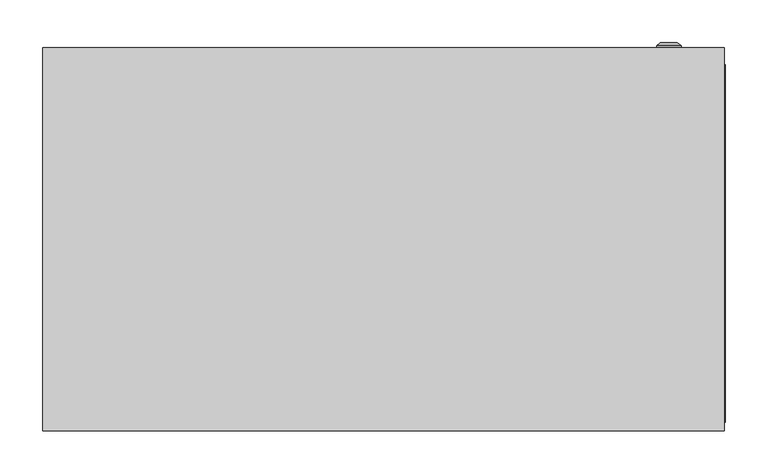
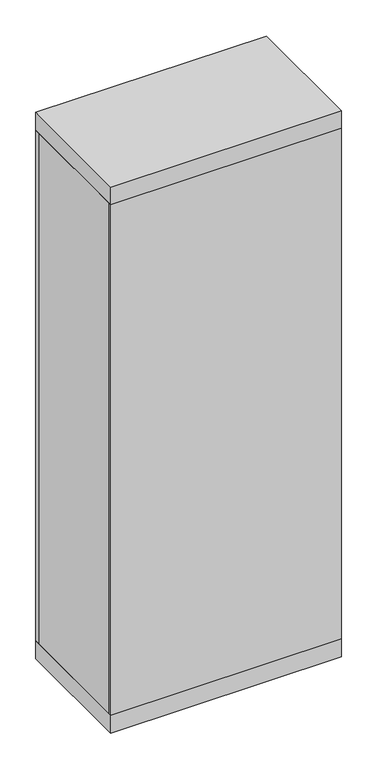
"""IFC4 building model written with IfcOpenShell, lengths in millimetres: proxy geometry, ВРУ-1_IP54 : ВРУ-1_2000х800х450."""

from ifc_helpers import new_model, si_unit, frame, origin, origin_with_axes, place, context, project, spatial, polyline, circle_curve, outline, extrude, source, transform, mapped, element, save
from ifc_brep_helpers import plane_surface, cylinder_surface, revolved_surface, advanced_brep


def electrical_equipment_03d4b405(model_context):
    return source(origin(), model_context, "Body", "SolidModel", [
        extrude(outline(polyline([(400.0, 0.0), (-400.0, 0.0), (-400.0, 10.0), (400.0, 10.0), (400.0, 0.0)])), frame((0.0, 0.0, 65.0187804), z_axis=(0.0, 0.0, 1.0), x_axis=(1.0, 0.0, 0.0)), (0.0, 0.0, 1.0), 1869.9812196),
        extrude(outline(polyline([(-355.8707865, 125.9831461), (-315.8707865, 125.9831461), (-315.8707865, 93.1179775), (-318.8707865, 93.1179775), (-318.8707865, 122.9831461), (-352.8707865, 122.9831461), (-352.8707865, 93.1179775), (-355.8707865, 93.1179775), (-355.8707865, 125.9831461)])), frame((0.0, 0.0, 189.6067416), z_axis=(0.0, 0.0, 1.0), x_axis=(1.0, 0.0, 0.0)), (0.0, 0.0, 1.0), 1745.3932584),
        extrude(outline(polyline([(315.8707865, 125.9831461), (355.8707865, 125.9831461), (355.8707865, 93.1179775), (352.8707865, 93.1179775), (352.8707865, 122.9831461), (318.8707865, 122.9831461), (318.8707865, 93.1179775), (315.8707865, 93.1179775), (315.8707865, 125.9831461)])), frame((0.0, 0.0, 189.6067416), z_axis=(0.0, 0.0, 1.0), x_axis=(1.0, 0.0, 0.0)), (0.0, 0.0, 1.0), 1745.3932584),
        extrude(outline(polyline([(-355.8707865, 10.0), (-365.8707865, 10.0), (-365.8707865, 430.0), (-355.8707865, 430.0), (-355.8707865, 10.0)])), frame((0.0, 0.0, 1845.5966059), z_axis=(0.0, 0.0, 1.0), x_axis=(1.0, 0.0, 0.0)), (0.0, 0.0, 1.0), 53.0898876),
        extrude(outline(polyline([(365.8707865, 10.0), (355.8707865, 10.0), (355.8707865, 430.0), (365.8707865, 430.0), (365.8707865, 10.0)])), frame((0.0, 0.0, 1845.5966059), z_axis=(0.0, 0.0, 1.0), x_axis=(1.0, 0.0, 0.0)), (0.0, 0.0, 1.0), 53.0898876),
        extrude(outline(polyline([(-355.8707865, 10.0), (-365.8707865, 10.0), (-365.8707865, 430.0), (-355.8707865, 430.0), (-355.8707865, 10.0)])), frame((0.0, 0.0, 255.5966059), z_axis=(0.0, 0.0, 1.0), x_axis=(1.0, 0.0, 0.0)), (0.0, 0.0, 1.0), 53.0898876),
        extrude(outline(polyline([(365.8707865, 10.0), (355.8707865, 10.0), (355.8707865, 430.0), (365.8707865, 430.0), (365.8707865, 10.0)])), frame((0.0, 0.0, 255.5966059), z_axis=(0.0, 0.0, 1.0), x_axis=(1.0, 0.0, 0.0)), (0.0, 0.0, 1.0), 53.0898876),
        extrude(outline(polyline([(-355.8707865, 10.0), (-365.8707865, 10.0), (-365.8707865, 430.0), (-355.8707865, 430.0), (-355.8707865, 10.0)])), frame((0.0, 0.0, 935.5966059), z_axis=(0.0, 0.0, 1.0), x_axis=(1.0, 0.0, 0.0)), (0.0, 0.0, 1.0), 53.0898876),
        extrude(outline(polyline([(365.8707865, 10.0), (355.8707865, 10.0), (355.8707865, 430.0), (365.8707865, 430.0), (365.8707865, 10.0)])), frame((0.0, 0.0, 935.5966059), z_axis=(0.0, 0.0, 1.0), x_axis=(1.0, 0.0, 0.0)), (0.0, 0.0, 1.0), 53.0898876),
        extrude(outline(polyline([(1935.0, -400.0), (65.0187804, -400.0), (65.0187804, 401.2640449), (1935.0, 401.2640449), (1935.0, -400.0)]), holes=[polyline([(93.3701084, 365.8707865), (93.3701084, -363.3426966), (1892.9861595, -363.3426966), (1892.9861595, 365.8707865), (93.3701084, 365.8707865)])]), frame((0.0, 10.0, 0.0), z_axis=(0.0, 1.0, 0.0), x_axis=(0.0, 0.0, 1.0)), (0.0, 0.0, 1.0), 420.0),
        extrude(outline(polyline([(400.0067809, 450.0), (400.0067809, 0.0), (-400.0, 0.0), (-400.0, 450.0), (400.0067809, 450.0)])), frame((0.0, 0.0, 1935.0), z_axis=(0.0, 0.0, 1.0), x_axis=(1.0, 0.0, 0.0)), (0.0, 0.0, 1.0), 65.0),
        advanced_brep(
        [(320.669873, 450.0, 515.0), (349.330127, 450.0, 515.0), (335.0, 450.0, 515.0), (320.669873, 452.366592, 515.0), (349.330127, 452.366592, 515.0), (325.0, 456.0, 515.0), (345.0, 456.0, 515.0), (333.1080471, 456.0, 515.0), (336.8919529, 456.0, 515.0), (333.1080471, 454.9822294, 515.0), (336.8919529, 454.9822294, 515.0), (335.0, 454.9822294, 515.0)],
        [
            (0, 1, circle_curve(frame((335.0, 450.0, 515.0), z_axis=(0.0, -1.0, 0.0), x_axis=(1.0, 0.0, 0.0)), 14.330127)),
            (1, 2),
            (2, 0),
            (1, 0, circle_curve(frame((335.0, 450.0, 515.0), z_axis=(0.0, -1.0, 0.0), x_axis=(1.0, 0.0, 0.0)), 14.330127)),
            (3, 4, circle_curve(frame((335.0, 452.366592, 515.0), z_axis=(0.0, -1.0, 0.0), x_axis=(1.0, 0.0, 0.0)), 14.330127)),
            (4, 1),
            (0, 3),
            (4, 3, circle_curve(frame((335.0, 452.366592, 515.0), z_axis=(0.0, -1.0, 0.0), x_axis=(1.0, 0.0, 0.0)), 14.330127)),
            (5, 6, circle_curve(frame((335.0, 456.0, 515.0), z_axis=(0.0, -1.0, 0.0), x_axis=(1.0, 0.0, 0.0)), 10.0)),
            (6, 4),
            (3, 5),
            (6, 5, circle_curve(frame((335.0, 456.0, 515.0), z_axis=(0.0, -1.0, 0.0), x_axis=(1.0, 0.0, 0.0)), 10.0)),
            (7, 8, circle_curve(frame((335.0, 456.0, 515.0), z_axis=(0.0, -1.0, 0.0), x_axis=(1.0, 0.0, 0.0)), 1.8919529)),
            (8, 6),
            (5, 7),
            (8, 7, circle_curve(frame((335.0, 456.0, 515.0), z_axis=(0.0, -1.0, 0.0), x_axis=(1.0, 0.0, 0.0)), 1.8919529)),
            (9, 10, circle_curve(frame((335.0, 454.9822294, 515.0), z_axis=(0.0, -1.0, 0.0), x_axis=(1.0, 0.0, 0.0)), 1.8919529)),
            (10, 8),
            (7, 9),
            (10, 9, circle_curve(frame((335.0, 454.9822294, 515.0), z_axis=(0.0, -1.0, 0.0), x_axis=(1.0, 0.0, 0.0)), 1.8919529)),
            (11, 10),
            (9, 11),
        ],
        [
            plane_surface(frame((335.0, 450.0, 515.0), z_axis=(0.0, -1.0, 0.0), x_axis=(1.0, 0.0, 0.0))),
            cylinder_surface(frame((335.0, 463.1348851, 515.0), z_axis=(0.0, 1.0, 0.0), x_axis=(1.0, 0.0, 0.0)), 14.330127),
            revolved_surface(polyline([(349.330127, 452.366592, 515.0), (345.0, 456.0, 515.0)]), (335.0, 463.1348851, 515.0), (0.0, 1.0, 0.0)),
            plane_surface(frame((335.0, 456.0, 515.0), z_axis=(0.0, 1.0, 0.0), x_axis=(1.0, 0.0, 0.0))),
            revolved_surface(polyline([(336.8919529, 456.0, 515.0), (336.8919529, 454.9822294, 515.0)]), (335.0, 463.1348851, 515.0), (0.0, 1.0, 0.0)),
            plane_surface(frame((335.0, 454.9822294, 515.0), z_axis=(0.0, 1.0, 0.0), x_axis=(1.0, 0.0, 0.0))),
        ],
        [
            (0, [[1, 2, 3]]),
            (0, [[4, -3, -2]]),
            (1, [[5, 6, -1, 7]]),
            (1, [[8, -7, -4, -6]]),
            (2, [[9, 10, -5, 11]]),
            (2, [[12, -11, -8, -10]]),
            (3, [[13, 14, -9, 15]]),
            (3, [[16, -15, -12, -14]]),
            (4, [[17, 18, -13, 19]]),
            (4, [[20, -19, -16, -18]]),
            (5, [[21, -17, 22]]),
            (5, [[-22, -20, -21]]),
        ],
    ),
        advanced_brep(
        [(320.669873, 450.0, 1485.0), (349.330127, 450.0, 1485.0), (335.0, 450.0, 1485.0), (320.669873, 452.366592, 1485.0), (349.330127, 452.366592, 1485.0), (325.0, 456.0, 1485.0), (345.0, 456.0, 1485.0), (333.1080471, 456.0, 1485.0), (336.8919529, 456.0, 1485.0), (333.1080471, 454.9822294, 1485.0), (336.8919529, 454.9822294, 1485.0), (335.0, 454.9822294, 1485.0)],
        [
            (0, 1, circle_curve(frame((335.0, 450.0, 1485.0), z_axis=(0.0, -1.0, 0.0), x_axis=(1.0, 0.0, 0.0)), 14.330127)),
            (1, 2),
            (2, 0),
            (1, 0, circle_curve(frame((335.0, 450.0, 1485.0), z_axis=(0.0, -1.0, 0.0), x_axis=(1.0, 0.0, 0.0)), 14.330127)),
            (3, 4, circle_curve(frame((335.0, 452.366592, 1485.0), z_axis=(0.0, -1.0, 0.0), x_axis=(1.0, 0.0, 0.0)), 14.330127)),
            (4, 1),
            (0, 3),
            (4, 3, circle_curve(frame((335.0, 452.366592, 1485.0), z_axis=(0.0, -1.0, 0.0), x_axis=(1.0, 0.0, 0.0)), 14.330127)),
            (5, 6, circle_curve(frame((335.0, 456.0, 1485.0), z_axis=(0.0, -1.0, 0.0), x_axis=(1.0, 0.0, 0.0)), 10.0)),
            (6, 4),
            (3, 5),
            (6, 5, circle_curve(frame((335.0, 456.0, 1485.0), z_axis=(0.0, -1.0, 0.0), x_axis=(1.0, 0.0, 0.0)), 10.0)),
            (7, 8, circle_curve(frame((335.0, 456.0, 1485.0), z_axis=(0.0, -1.0, 0.0), x_axis=(1.0, 0.0, 0.0)), 1.8919529)),
            (8, 6),
            (5, 7),
            (8, 7, circle_curve(frame((335.0, 456.0, 1485.0), z_axis=(0.0, -1.0, 0.0), x_axis=(1.0, 0.0, 0.0)), 1.8919529)),
            (9, 10, circle_curve(frame((335.0, 454.9822294, 1485.0), z_axis=(0.0, -1.0, 0.0), x_axis=(1.0, 0.0, 0.0)), 1.8919529)),
            (10, 8),
            (7, 9),
            (10, 9, circle_curve(frame((335.0, 454.9822294, 1485.0), z_axis=(0.0, -1.0, 0.0), x_axis=(1.0, 0.0, 0.0)), 1.8919529)),
            (11, 10),
            (9, 11),
        ],
        [
            plane_surface(frame((335.0, 450.0, 1485.0), z_axis=(0.0, -1.0, 0.0), x_axis=(1.0, 0.0, 0.0))),
            cylinder_surface(frame((335.0, 463.1348851, 1485.0), z_axis=(0.0, 1.0, 0.0), x_axis=(1.0, 0.0, 0.0)), 14.330127),
            revolved_surface(polyline([(349.330127, 452.366592, 1485.0), (345.0, 456.0, 1485.0)]), (335.0, 463.1348851, 1485.0), (0.0, 1.0, 0.0)),
            plane_surface(frame((335.0, 456.0, 1485.0), z_axis=(0.0, 1.0, 0.0), x_axis=(1.0, 0.0, 0.0))),
            revolved_surface(polyline([(336.8919529, 456.0, 1485.0), (336.8919529, 454.9822294, 1485.0)]), (335.0, 463.1348851, 1485.0), (0.0, 1.0, 0.0)),
            plane_surface(frame((335.0, 454.9822294, 1485.0), z_axis=(0.0, 1.0, 0.0), x_axis=(1.0, 0.0, 0.0))),
        ],
        [
            (0, [[1, 2, 3]]),
            (0, [[4, -3, -2]]),
            (1, [[5, 6, -1, 7]]),
            (1, [[8, -7, -4, -6]]),
            (2, [[9, 10, -5, 11]]),
            (2, [[12, -11, -8, -10]]),
            (3, [[13, 14, -9, 15]]),
            (3, [[16, -15, -12, -14]]),
            (4, [[17, 18, -13, 19]]),
            (4, [[20, -19, -16, -18]]),
            (5, [[21, -17, 22]]),
            (5, [[-22, -20, -21]]),
        ],
    ),
        extrude(outline(polyline([(400.0067809, 450.0), (400.0067809, 0.0), (-400.0, 0.0), (-400.0, 450.0), (400.0067809, 450.0)])), origin_with_axes(), (0.0, 0.0, 1.0), 65.0187804),
        extrude(outline(polyline([(400.0, 430.0), (-400.0, 430.0), (-400.0, 450.0), (400.0, 450.0), (400.0, 430.0)])), frame((0.0, 0.0, 65.0187804), z_axis=(0.0, 0.0, 1.0), x_axis=(1.0, 0.0, 0.0)), (0.0, 0.0, 1.0), 1869.9812196),
    ])


if __name__ == "__main__":
    model = new_model("IFC4")
    model_context = context("Model", 3, world=origin())
    ifc_project = project(units=[si_unit("LENGTHUNIT", "METRE", prefix="MILLI")], contexts=[model_context])
    site = spatial("IfcSite", under=ifc_project)
    building = spatial("IfcBuilding", under=site)
    placement = place(None, origin())
    electrical_equipment_shape = electrical_equipment_03d4b405(model_context)
    element("IfcBuildingElementProxy", 1, Name="ВРУ-1_IP54 : ВРУ-1_2000х800х450", ObjectType="ВРУ-1_IP54 : ВРУ-1_2000х800х450", at=placement, inside=building, context=model_context, shape_type="MappedRepresentation", body=[
        mapped(electrical_equipment_shape, transform((0.0, 0.0, 0.0), x_axis=(1.0, 0.0, 0.0), y_axis=(0.0, 1.0, 0.0), z_axis=(0.0, 0.0, 1.0))),
    ])
    save(model, "model.ifc")
